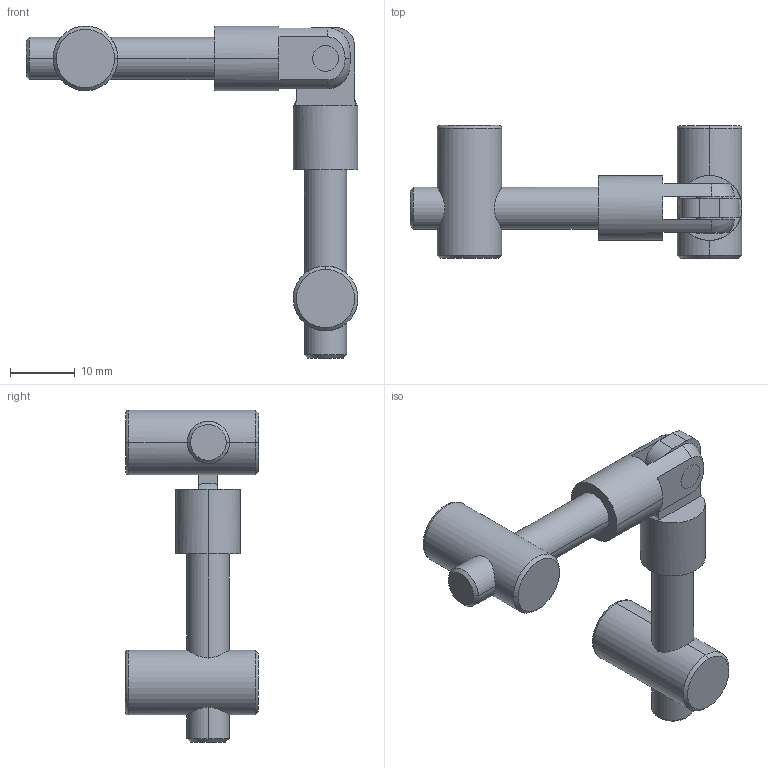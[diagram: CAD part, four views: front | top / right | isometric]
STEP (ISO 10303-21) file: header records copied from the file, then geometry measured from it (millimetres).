
FILE_DESCRIPTION (( 'STEP AP203' ), '1' );
FILE_NAME ('5220.STEP', '2016-04-10T12:08:43', ( '' ), ( '' ), 'SwSTEP 2.0', 'SolidWorks 2014', '' );
FILE_SCHEMA (( 'CONFIG_CONTROL_DESIGN' ));
Length unit declared in the file: millimetre
Products named in the file (5): 33; 11; 44; 22; 5220
Assembly tree (6 placements, depth 2):
  5220
    11
    22
    33  x2
    44  x2
Bounding box: 51.18 x 20.54 x 51.18 mm (x, y, z)
Volume: 6596.2 mm3; surface area: 5526 mm2
Topology: 7 solids, 7 shells, 126 faces, 287 edges, 174 vertices
Faces by surface type: cylinder 46, plane 46, torus 20, cone 12, bspline 2
Entity records: 3747 total; most frequent: CARTESIAN_POINT 1084, DIRECTION 454, ORIENTED_EDGE 428, EDGE_CURVE 214, AXIS2_PLACEMENT_3D 184, VERTEX_POINT 132, EDGE_LOOP 100, FACE_OUTER_BOUND 93
